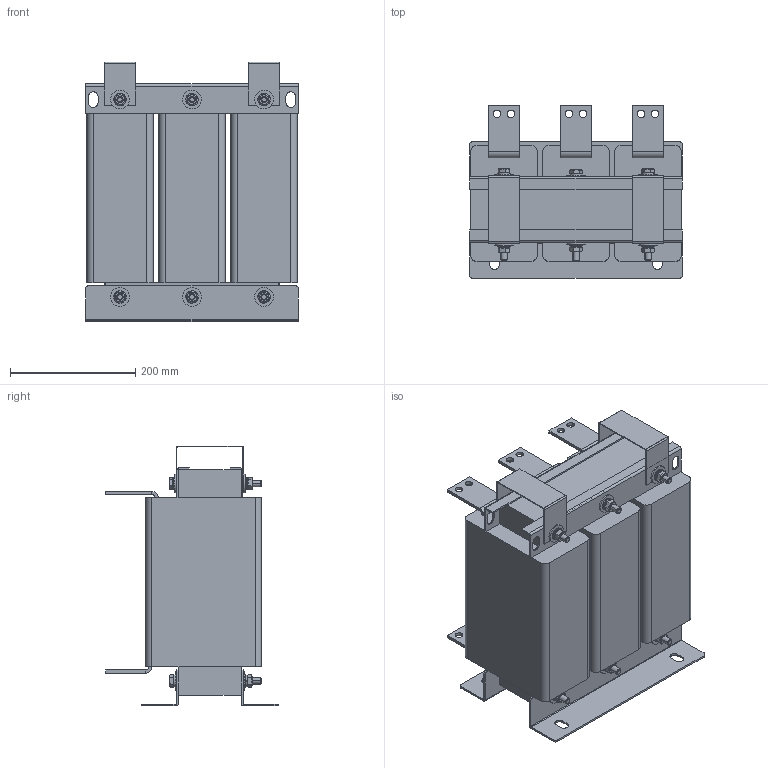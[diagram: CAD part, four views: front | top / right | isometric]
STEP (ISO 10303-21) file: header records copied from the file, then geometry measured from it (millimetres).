
FILE_DESCRIPTION (( 'STEP AP203' ), '1' );
FILE_NAME ('Ñåòåâîé äðîññåëü _ ISF-500_934-4.STEP', '2025-07-15T07:31:02', ( '' ), ( '' ), 'SwSTEP 2.0', 'SolidWorks 2021', '' );
FILE_SCHEMA (( 'CONFIG_CONTROL_DESIGN' ));
Length unit declared in the file: millimetre
Products named in the file (14): Êàòóøêà ñ êëåììàìè_500; Êëåììà íèæíÿÿ; Ñåòåâîé äðîññåëü _ ISF-500_934-4; Øàéáà ïëîñêàÿ DIN 9021_Œ10; 赶鎀鍧 瀔鳽鳻膼嶱500; Ãàéêà DIN 934_Œ10; 栫謱毿膻獥500; Ñêîáà òàêåëàæíàÿ_500; Øàéáà ïëîñêàÿ DIN 125 (A)_Œ10; Áîëò DIN 933_Œ10å140; 忺覷齆趌500; Êëåììà âåðõíÿÿ; 咈櫡_500; Øàéáà ïðóæèííàÿ DIN 127 (A)_Œ10
Assembly tree (55 placements, depth 3):
  Ñåòåâîé äðîññåëü _ ISF-500_934-4
    栫謱毿膻獥500
    咈櫡_500  x2
    Êàòóøêà ñ êëåììàìè_500  x3
      忺覷齆趌500
      Êëåììà íèæíÿÿ
      Êëåììà âåðõíÿÿ
    赶鎀鍧 瀔鳽鳻膼嶱500  x2
    Ñêîáà òàêåëàæíàÿ_500  x2
    Áîëò DIN 933_Œ10å140  x6
    Øàéáà ïëîñêàÿ DIN 125 (A)_Œ10  x12
    Øàéáà ïëîñêàÿ DIN 9021_Œ10  x12
    Øàéáà ïðóæèííàÿ DIN 127 (A)_Œ10  x6
    Ãàéêà DIN 934_Œ10  x6
Bounding box: 340 x 275 x 415 mm (x, y, z)
Volume: 18826856.7 mm3; surface area: 1610603.5 mm2
Topology: 58 solids, 58 shells, 918 faces, 2060 edges, 1276 vertices
Faces by surface type: plane 426, cylinder 288, cone 192, torus 12
Entity records: 10120 total; most frequent: CARTESIAN_POINT 1469, DIRECTION 1352, ORIENTED_EDGE 1160, EDGE_CURVE 580, AXIS2_PLACEMENT_3D 501, VERTEX_POINT 362, LINE 350, VECTOR 350
